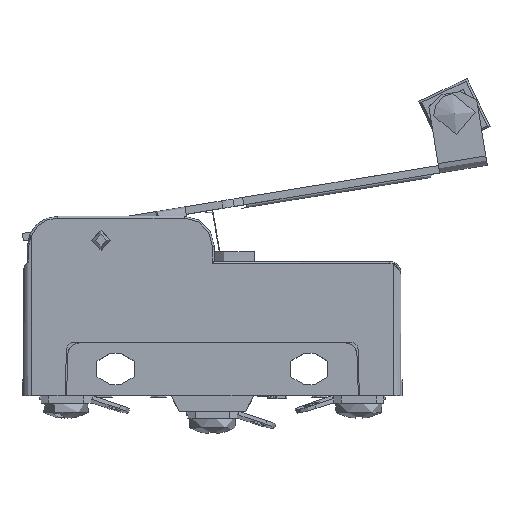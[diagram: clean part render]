
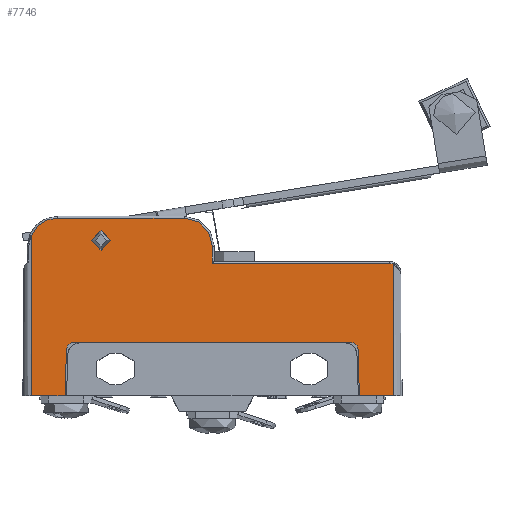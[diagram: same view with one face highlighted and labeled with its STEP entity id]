
A CAD part, top view. The second image highlights one B-rep face of the part: STEP entity #7746.
In plain terms, the highlighted planar face has unit normal (0, 0, 1).
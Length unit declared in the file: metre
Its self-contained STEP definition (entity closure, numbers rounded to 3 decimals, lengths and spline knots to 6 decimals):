
#6968=CARTESIAN_POINT('',(-0.011767,0.013867,0.05815));
#6969=DIRECTION('',(0.,0.,1.));
#6970=DIRECTION('',(1.,0.,0.));
#6971=AXIS2_PLACEMENT_3D('',#6968,#6969,#6970);
#6972=CIRCLE('',#6971,0.0013);
#6973=CARTESIAN_POINT('',(-0.013067,0.013867,0.05815));
#6974=VERTEX_POINT('',#6973);
#6975=EDGE_CURVE('',#6974,#6974,#6972,.T.);
#7002=CARTESIAN_POINT('',(0.022323,-0.000607,0.05815));
#7003=VERTEX_POINT('',#7002);
#7006=CARTESIAN_POINT('',(0.021323,-0.000633,0.05815));
#7007=DIRECTION('',(0.,0.,1.));
#7008=DIRECTION('',(1.,0.,0.));
#7009=AXIS2_PLACEMENT_3D('',#7006,#7007,#7008);
#7010=CIRCLE('',#7009,0.001);
#7011=CARTESIAN_POINT('',(0.021323,0.000367,0.05815));
#7012=VERTEX_POINT('',#7011);
#7013=EDGE_CURVE('',#7003,#7012,#7010,.T.);
#7047=CARTESIAN_POINT('',(-0.015357,0.000367,0.05815));
#7048=DIRECTION('',(-1.,0.,0.));
#7049=VECTOR('',#7048,1.);
#7050=LINE('',#7047,#7049);
#7051=CARTESIAN_POINT('',(-0.015357,0.000367,0.05815));
#7052=VERTEX_POINT('',#7051);
#7053=EDGE_CURVE('',#7012,#7052,#7050,.T.);
#7086=CARTESIAN_POINT('',(-0.015357,-0.000633,0.05815));
#7087=DIRECTION('',(0.,0.,1.));
#7088=DIRECTION('',(1.,0.,0.));
#7089=AXIS2_PLACEMENT_3D('',#7086,#7087,#7088);
#7090=CIRCLE('',#7089,0.001);
#7091=CARTESIAN_POINT('',(-0.016356,-0.000607,0.05815));
#7092=VERTEX_POINT('',#7091);
#7093=EDGE_CURVE('',#7052,#7092,#7090,.T.);
#7127=CARTESIAN_POINT('',(-0.016517,-0.006733,0.05815));
#7128=DIRECTION('',(-0.026,-1.,0.));
#7129=VECTOR('',#7128,1.);
#7130=LINE('',#7127,#7129);
#7131=CARTESIAN_POINT('',(-0.016517,-0.006733,0.05815));
#7132=VERTEX_POINT('',#7131);
#7133=EDGE_CURVE('',#7092,#7132,#7130,.T.);
#7409=CARTESIAN_POINT('',(-0.020992,-0.006733,0.05815));
#7410=VERTEX_POINT('',#7409);
#7413=CARTESIAN_POINT('',(-0.020992,0.011067,0.05815));
#7414=DIRECTION('',(0.,-1.,0.));
#7415=VECTOR('',#7414,1.);
#7416=LINE('',#7413,#7415);
#7417=CARTESIAN_POINT('',(-0.020992,0.014524,0.05815));
#7418=VERTEX_POINT('',#7417);
#7419=EDGE_CURVE('',#7418,#7410,#7416,.T.);
#7491=CARTESIAN_POINT('',(-0.017537,0.016817,0.05815));
#7492=VERTEX_POINT('',#7491);
#7513=CARTESIAN_POINT('',(-0.017537,0.013067,0.05815));
#7514=DIRECTION('',(0.,0.,-1.));
#7515=DIRECTION('',(-1.,0.,0.));
#7516=AXIS2_PLACEMENT_3D('',#7513,#7514,#7515);
#7517=CIRCLE('',#7516,0.00375);
#7518=EDGE_CURVE('',#7418,#7492,#7517,.T.);
#7541=CARTESIAN_POINT('',(0.026508,0.010817,0.05815));
#7542=VERTEX_POINT('',#7541);
#7560=CARTESIAN_POINT('',(0.003009,0.010817,0.05815));
#7561=VERTEX_POINT('',#7560);
#7564=CARTESIAN_POINT('',(0.003259,0.010817,0.05815));
#7565=DIRECTION('',(1.,0.,0.));
#7566=VECTOR('',#7565,1.);
#7567=LINE('',#7564,#7566);
#7568=EDGE_CURVE('',#7561,#7542,#7567,.T.);
#7600=CARTESIAN_POINT('',(0.003009,0.013067,0.05815));
#7601=VERTEX_POINT('',#7600);
#7604=CARTESIAN_POINT('',(0.003009,0.013067,0.05815));
#7605=DIRECTION('',(0.,1.,0.));
#7606=VECTOR('',#7605,1.);
#7607=LINE('',#7604,#7606);
#7608=EDGE_CURVE('',#7561,#7601,#7607,.T.);
#7641=CARTESIAN_POINT('',(-0.000741,0.016817,0.05815));
#7642=VERTEX_POINT('',#7641);
#7645=CARTESIAN_POINT('',(-0.000741,0.013067,0.05815));
#7646=DIRECTION('',(0.,0.,-1.));
#7647=DIRECTION('',(-1.,0.,0.));
#7648=AXIS2_PLACEMENT_3D('',#7645,#7646,#7647);
#7649=CIRCLE('',#7648,0.00375);
#7650=EDGE_CURVE('',#7642,#7601,#7649,.T.);
#7676=CARTESIAN_POINT('',(-0.017537,0.016817,0.05815));
#7677=DIRECTION('',(-1.,0.,0.));
#7678=VECTOR('',#7677,1.);
#7679=LINE('',#7676,#7678);
#7680=EDGE_CURVE('',#7642,#7492,#7679,.T.);
#7693=CARTESIAN_POINT('',(-0.021992,0.011067,0.05815));
#7694=DIRECTION('',(0.,0.,-1.));
#7695=DIRECTION('',(-1.,0.,0.));
#7696=AXIS2_PLACEMENT_3D('',#7693,#7694,#7695);
#7697=PLANE('',#7696);
#7698=ORIENTED_EDGE('',*,*,#7680,.T.);
#7699=ORIENTED_EDGE('',*,*,#7518,.F.);
#7700=ORIENTED_EDGE('',*,*,#7419,.T.);
#7701=CARTESIAN_POINT('',(-0.021992,-0.006733,0.05815));
#7702=DIRECTION('',(1.,0.,0.));
#7703=VECTOR('',#7702,1.);
#7704=LINE('',#7701,#7703);
#7705=EDGE_CURVE('',#7410,#7132,#7704,.T.);
#7706=ORIENTED_EDGE('',*,*,#7705,.T.);
#7707=ORIENTED_EDGE('',*,*,#7133,.F.);
#7708=ORIENTED_EDGE('',*,*,#7093,.F.);
#7709=ORIENTED_EDGE('',*,*,#7053,.F.);
#7710=ORIENTED_EDGE('',*,*,#7013,.F.);
#7711=CARTESIAN_POINT('',(0.022483,-0.006733,0.05815));
#7712=DIRECTION('',(-0.026,1.,0.));
#7713=VECTOR('',#7712,1.);
#7714=LINE('',#7711,#7713);
#7715=CARTESIAN_POINT('',(0.022483,-0.006733,0.05815));
#7716=VERTEX_POINT('',#7715);
#7717=EDGE_CURVE('',#7716,#7003,#7714,.T.);
#7718=ORIENTED_EDGE('',*,*,#7717,.F.);
#7719=CARTESIAN_POINT('',(0.027008,-0.006733,0.05815));
#7720=VERTEX_POINT('',#7719);
#7721=EDGE_CURVE('',#7716,#7720,#7704,.T.);
#7722=ORIENTED_EDGE('',*,*,#7721,.T.);
#7723=CARTESIAN_POINT('',(0.027008,0.011067,0.05815));
#7724=DIRECTION('',(0.,-1.,0.));
#7725=VECTOR('',#7724,1.);
#7726=LINE('',#7723,#7725);
#7727=CARTESIAN_POINT('',(0.027008,0.010713,0.05815));
#7728=VERTEX_POINT('',#7727);
#7729=EDGE_CURVE('',#7728,#7720,#7726,.T.);
#7730=ORIENTED_EDGE('',*,*,#7729,.F.);
#7731=CARTESIAN_POINT('',(0.026508,0.009567,0.05815));
#7732=DIRECTION('',(0.,0.,-1.));
#7733=DIRECTION('',(-1.,0.,0.));
#7734=AXIS2_PLACEMENT_3D('',#7731,#7732,#7733);
#7735=CIRCLE('',#7734,0.00125);
#7736=EDGE_CURVE('',#7542,#7728,#7735,.T.);
#7737=ORIENTED_EDGE('',*,*,#7736,.F.);
#7738=ORIENTED_EDGE('',*,*,#7568,.F.);
#7739=ORIENTED_EDGE('',*,*,#7608,.T.);
#7740=ORIENTED_EDGE('',*,*,#7650,.F.);
#7741=EDGE_LOOP('',(#7698,#7699,#7700,#7706,#7707,#7708,#7709,#7710,#7718,#7722,#7730,#7737,#7738,#7739,#7740));
#7742=FACE_BOUND('',#7741,.T.);
#7743=ORIENTED_EDGE('',*,*,#6975,.F.);
#7744=EDGE_LOOP('',(#7743));
#7745=FACE_BOUND('',#7744,.T.);
#7746=ADVANCED_FACE('',(#7742,#7745),#7697,.F.);
